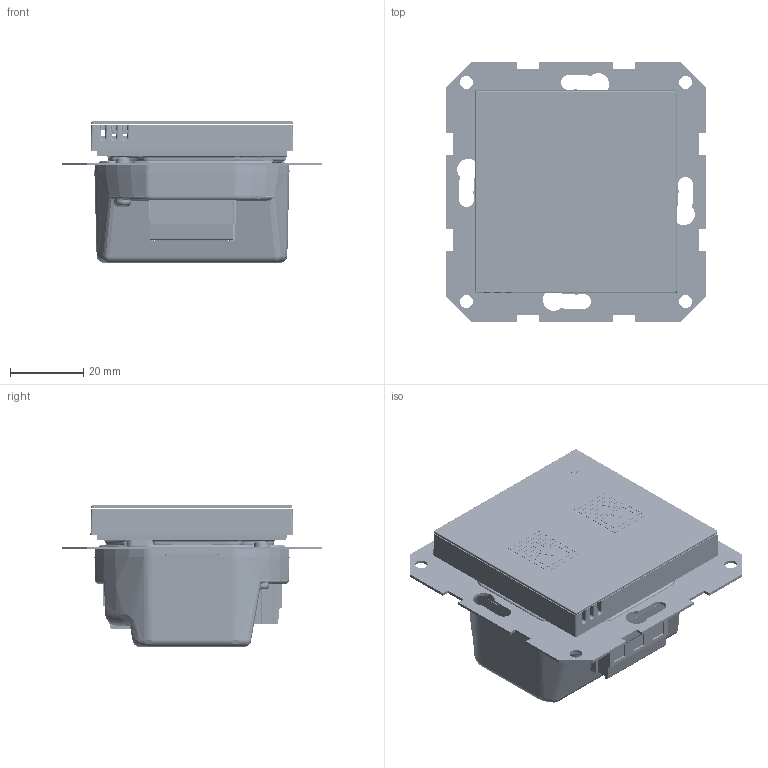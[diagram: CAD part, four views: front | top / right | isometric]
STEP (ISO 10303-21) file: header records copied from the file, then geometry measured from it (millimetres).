
FILE_DESCRIPTION(/* description */ (''),/* implementation_level */ '2;1');
FILE_NAME(/* name */ 'FS-02m BEZ RAMKI.step',/* time_stamp */ '2026-01-25T09:04:23+01:00',/* author */ (''),/* organization */ (''),/* preprocessor_version */ 'ST-DEVELOPER v20.1',/* originating_system */ 'Autodesk Translation Framework v14.24.0.0',/* authorisation */ '');
FILE_SCHEMA (('AUTOMOTIVE_DESIGN { 1 0 10303 214 3 1 1 }'));
Products named in the file (21): wersja 1.3_eink; microUSB_pionowe; Gniazdo rast2; spod1; Plytka1.2; Led_izolator_ramka_01; szkło_eink; Gora2; FS-02 FARMA v1; przełącznik szklany; tył klawisz; OP-1398_C; Blacha1.2; DIN ISO 7049 - C-H ST2.2 x 9.5 - C - H; OP-1399_K; FOB08D880ED1gk8; DG128-5.0-02P-14-00AH; tht prosty L20; tht prosty; PODSWIETLENIE; Komponent26
Assembly tree (37 placements, depth 4):
  wersja 1.3_eink
    tht prosty L20  x8
    tht prosty  x8
    microUSB_pionowe
    Gniazdo rast2
    spod1
    Plytka1.2
    Led_izolator_ramka_01
    szkło_eink
    Gora2
    PODSWIETLENIE  x2
    FS-02 FARMA v1
    przełącznik szklany
      tył klawisz
        OP-1398_C
        Blacha1.2
        DIN ISO 7049 - C-H ST2.2 x 9.5 - C - H  x2
      OP-1399_K
      DG128-5.0-02P-14-00AH  x2
      FOB08D880ED1gk8
    Komponent26
Bounding box: 70.8 x 70.8 x 38.72 mm (x, y, z)
Volume: 43106.9 mm3; surface area: 68287.9 mm2
Topology: 41 solids, 41 shells, 8535 faces, 23734 edges, 15539 vertices
Faces by surface type: cone 3372, plane 3326, bspline 1073, cylinder 523, torus 196, sphere 45
Full cylindrical faces by diameter (mm): 0.25 x1, 0.601 x1, 0.8 x4, 1 x5, 1.7 x2, 2 x1, 2.2 x2, 2.4 x2, 2.9 x3, 3.5 x4, 4 x4, 4.099 x6, 4.1 x8
Entity records: 203173 total; most frequent: CARTESIAN_POINT 62732, ORIENTED_EDGE 28946, DIRECTION 26215, EDGE_CURVE 14473, VERTEX_POINT 10478, LINE 9257, VECTOR 9257, AXIS2_PLACEMENT_3D 8479
